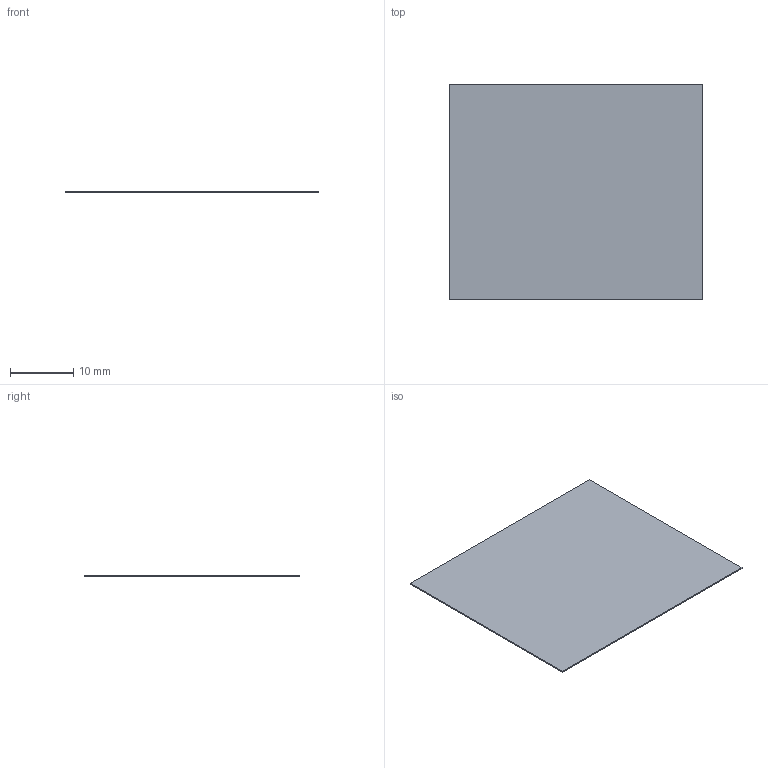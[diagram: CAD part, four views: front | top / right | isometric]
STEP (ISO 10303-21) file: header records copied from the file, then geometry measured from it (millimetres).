
FILE_DESCRIPTION (( 'STEP AP203' ), '1' );
FILE_NAME ('CV-PL-CX-75X46X40.STEP', '2024-03-15T09:52:35', ( '' ), ( '' ), 'SwSTEP 2.0', 'SolidWorks 2020', '' );
FILE_SCHEMA (( 'CONFIG_CONTROL_DESIGN' ));
Length unit declared in the file: millimetre
Products named in the file (1): CV-PL-CX-75X46X40
Bounding box: 40 x 34 x 0.19 mm (x, y, z)
Volume: 258.4 mm3; surface area: 2748.1 mm2
Topology: 1 solids, 1 shells, 6 faces, 12 edges, 8 vertices
Faces by surface type: plane 6
Entity records: 233 total; most frequent: CARTESIAN_POINT 27, DIRECTION 26, ORIENTED_EDGE 24, LINE 12, VECTOR 12, EDGE_CURVE 12, VERTEX_POINT 8, PERSON_AND_ORGANIZATION 8
